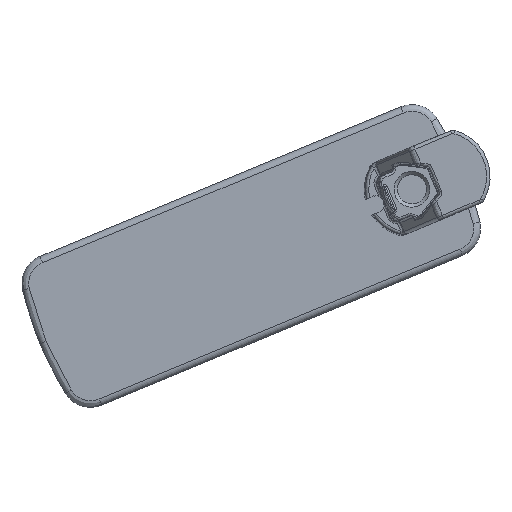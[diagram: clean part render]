
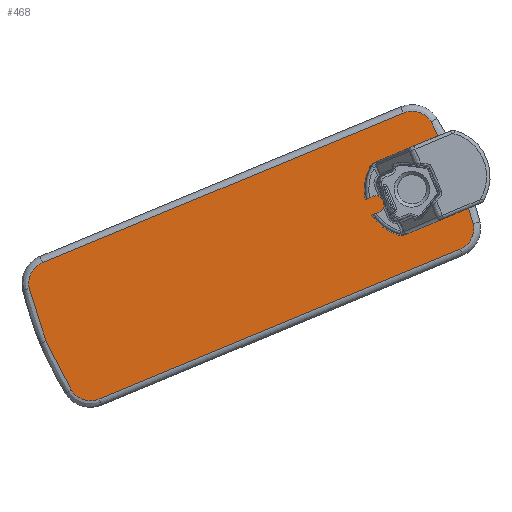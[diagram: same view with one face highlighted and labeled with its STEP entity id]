
A CAD part, top view. The second image highlights one B-rep face of the part: STEP entity #468.
In plain terms, the highlighted free-form (B-spline) face has degree [1, 1] with [2, 2] control points.
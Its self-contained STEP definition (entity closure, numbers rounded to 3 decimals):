
#369=CARTESIAN_POINT('',(-63.75,-30.75,-5.));
#370=CARTESIAN_POINT('',(-63.75,117.75,-5.));
#371=CARTESIAN_POINT('',(84.75,-30.75,-5.));
#372=CARTESIAN_POINT('',(84.75,117.75,-5.));
#373=B_SPLINE_SURFACE_WITH_KNOTS('',1,1,((#369,#370),(#371,#372)),.PLANE_SURF.,.F.,.F.,.U.,(2,2),(2,2),(0.,1.),(0.,1.),.UNSPECIFIED.);
#374=CARTESIAN_POINT('',(-46.755,-21.616,-5.));
#375=VERTEX_POINT('',#374);
#376=CARTESIAN_POINT('',(67.755,-21.616,-5.));
#377=VERTEX_POINT('',#376);
#378=CARTESIAN_POINT('',(-46.755,-21.616,-5.));
#379=CARTESIAN_POINT('',(67.755,-21.616,-5.));
#380=B_SPLINE_CURVE_WITH_KNOTS('',1,(#378,#379),.POLYLINE_FORM.,.F.,.U.,(2,2),(0.,1.),.UNSPECIFIED.);
#381=EDGE_CURVE('',#375,#377,#380,.T.);
#382=ORIENTED_EDGE('',*,*,#381,.T.);
#383=CARTESIAN_POINT('',(74.281,-16.091,-5.));
#384=VERTEX_POINT('',#383);
#385=CARTESIAN_POINT('',(67.755,-21.616,-5.));
#386=CARTESIAN_POINT('',(73.358,-21.616,-5.));
#387=CARTESIAN_POINT('',(74.281,-16.091,-5.));
#388=(BOUNDED_CURVE()B_SPLINE_CURVE(2,(#385,#386,#387),.CIRCULAR_ARC.,.F.,.U.)B_SPLINE_CURVE_WITH_KNOTS((3,3),(0.,1.),.UNSPECIFIED.)CURVE()GEOMETRIC_REPRESENTATION_ITEM()RATIONAL_B_SPLINE_CURVE((1.,0.763,1.))REPRESENTATION_ITEM(''));
#389=EDGE_CURVE('',#377,#384,#388,.T.);
#390=ORIENTED_EDGE('',*,*,#389,.T.);
#391=CARTESIAN_POINT('',(75.616,0.,-5.));
#392=VERTEX_POINT('',#391);
#393=CARTESIAN_POINT('',(74.281,-16.091,-5.));
#394=CARTESIAN_POINT('',(75.616,-8.101,-5.));
#395=CARTESIAN_POINT('',(75.616,0.,-5.));
#396=(BOUNDED_CURVE()B_SPLINE_CURVE(2,(#393,#394,#395),.CIRCULAR_ARC.,.F.,.U.)B_SPLINE_CURVE_WITH_KNOTS((3,3),(0.,1.),.UNSPECIFIED.)CURVE()GEOMETRIC_REPRESENTATION_ITEM()RATIONAL_B_SPLINE_CURVE((1.,0.997,1.))REPRESENTATION_ITEM(''));
#397=EDGE_CURVE('',#384,#392,#396,.T.);
#398=ORIENTED_EDGE('',*,*,#397,.T.);
#399=CARTESIAN_POINT('',(74.281,16.091,-5.));
#400=VERTEX_POINT('',#399);
#401=CARTESIAN_POINT('',(75.616,0.,-5.));
#402=CARTESIAN_POINT('',(75.616,8.101,-5.));
#403=CARTESIAN_POINT('',(74.281,16.091,-5.));
#404=(BOUNDED_CURVE()B_SPLINE_CURVE(2,(#401,#402,#403),.CIRCULAR_ARC.,.F.,.U.)B_SPLINE_CURVE_WITH_KNOTS((3,3),(0.,1.),.UNSPECIFIED.)CURVE()GEOMETRIC_REPRESENTATION_ITEM()RATIONAL_B_SPLINE_CURVE((1.,0.997,1.))REPRESENTATION_ITEM(''));
#405=EDGE_CURVE('',#392,#400,#404,.T.);
#406=ORIENTED_EDGE('',*,*,#405,.T.);
#407=CARTESIAN_POINT('',(67.755,21.616,-5.));
#408=VERTEX_POINT('',#407);
#409=CARTESIAN_POINT('',(74.281,16.091,-5.));
#410=CARTESIAN_POINT('',(73.358,21.616,-5.));
#411=CARTESIAN_POINT('',(67.755,21.616,-5.));
#412=(BOUNDED_CURVE()B_SPLINE_CURVE(2,(#409,#410,#411),.CIRCULAR_ARC.,.F.,.U.)B_SPLINE_CURVE_WITH_KNOTS((3,3),(0.,1.),.UNSPECIFIED.)CURVE()GEOMETRIC_REPRESENTATION_ITEM()RATIONAL_B_SPLINE_CURVE((1.,0.763,1.))REPRESENTATION_ITEM(''));
#413=EDGE_CURVE('',#400,#408,#412,.T.);
#414=ORIENTED_EDGE('',*,*,#413,.T.);
#415=CARTESIAN_POINT('',(-46.755,21.616,-5.));
#416=VERTEX_POINT('',#415);
#417=CARTESIAN_POINT('',(67.755,21.616,-5.));
#418=CARTESIAN_POINT('',(-46.755,21.616,-5.));
#419=B_SPLINE_CURVE_WITH_KNOTS('',1,(#417,#418),.POLYLINE_FORM.,.F.,.U.,(2,2),(0.,1.),.UNSPECIFIED.);
#420=EDGE_CURVE('',#408,#416,#419,.T.);
#421=ORIENTED_EDGE('',*,*,#420,.T.);
#422=CARTESIAN_POINT('',(-53.281,16.091,-5.));
#423=VERTEX_POINT('',#422);
#424=CARTESIAN_POINT('',(-46.755,21.616,-5.));
#425=CARTESIAN_POINT('',(-52.358,21.616,-5.));
#426=CARTESIAN_POINT('',(-53.281,16.091,-5.));
#427=(BOUNDED_CURVE()B_SPLINE_CURVE(2,(#424,#425,#426),.CIRCULAR_ARC.,.F.,.U.)B_SPLINE_CURVE_WITH_KNOTS((3,3),(0.,1.),.UNSPECIFIED.)CURVE()GEOMETRIC_REPRESENTATION_ITEM()RATIONAL_B_SPLINE_CURVE((1.,0.763,1.))REPRESENTATION_ITEM(''));
#428=EDGE_CURVE('',#416,#423,#427,.T.);
#429=ORIENTED_EDGE('',*,*,#428,.T.);
#430=CARTESIAN_POINT('',(-54.616,0.,-5.));
#431=VERTEX_POINT('',#430);
#432=CARTESIAN_POINT('',(-53.281,16.091,-5.));
#433=CARTESIAN_POINT('',(-54.616,8.101,-5.));
#434=CARTESIAN_POINT('',(-54.616,0.,-5.));
#435=(BOUNDED_CURVE()B_SPLINE_CURVE(2,(#432,#433,#434),.CIRCULAR_ARC.,.F.,.U.)B_SPLINE_CURVE_WITH_KNOTS((3,3),(0.,1.),.UNSPECIFIED.)CURVE()GEOMETRIC_REPRESENTATION_ITEM()RATIONAL_B_SPLINE_CURVE((1.,0.997,1.))REPRESENTATION_ITEM(''));
#436=EDGE_CURVE('',#423,#431,#435,.T.);
#437=ORIENTED_EDGE('',*,*,#436,.T.);
#438=CARTESIAN_POINT('',(-53.281,-16.091,-5.));
#439=VERTEX_POINT('',#438);
#440=CARTESIAN_POINT('',(-54.616,0.,-5.));
#441=CARTESIAN_POINT('',(-54.616,-8.101,-5.));
#442=CARTESIAN_POINT('',(-53.281,-16.091,-5.));
#443=(BOUNDED_CURVE()B_SPLINE_CURVE(2,(#440,#441,#442),.CIRCULAR_ARC.,.F.,.U.)B_SPLINE_CURVE_WITH_KNOTS((3,3),(0.,1.),.UNSPECIFIED.)CURVE()GEOMETRIC_REPRESENTATION_ITEM()RATIONAL_B_SPLINE_CURVE((1.,0.997,1.))REPRESENTATION_ITEM(''));
#444=EDGE_CURVE('',#431,#439,#443,.T.);
#445=ORIENTED_EDGE('',*,*,#444,.T.);
#446=CARTESIAN_POINT('',(-53.281,-16.091,-5.));
#447=CARTESIAN_POINT('',(-52.358,-21.616,-5.));
#448=CARTESIAN_POINT('',(-46.755,-21.616,-5.));
#449=(BOUNDED_CURVE()B_SPLINE_CURVE(2,(#446,#447,#448),.CIRCULAR_ARC.,.F.,.U.)B_SPLINE_CURVE_WITH_KNOTS((3,3),(0.,1.),.UNSPECIFIED.)CURVE()GEOMETRIC_REPRESENTATION_ITEM()RATIONAL_B_SPLINE_CURVE((1.,0.763,1.))REPRESENTATION_ITEM(''));
#450=EDGE_CURVE('',#439,#375,#449,.T.);
#451=ORIENTED_EDGE('',*,*,#450,.T.);
#452=EDGE_LOOP('',(#382,#390,#398,#406,#414,#421,#429,#437,#445,#451));
#453=FACE_OUTER_BOUND('',#452,.F.);
#454=CARTESIAN_POINT('',(-48.75,0.,-5.));
#455=VERTEX_POINT('',#454);
#456=CARTESIAN_POINT('',(-48.75,0.,-5.));
#457=CARTESIAN_POINT('',(-48.75,14.289,-5.));
#458=CARTESIAN_POINT('',(-36.375,7.145,-5.));
#459=CARTESIAN_POINT('',(-24.,0.,-5.));
#460=CARTESIAN_POINT('',(-36.375,-7.145,-5.));
#461=CARTESIAN_POINT('',(-48.75,-14.289,-5.));
#462=CARTESIAN_POINT('',(-48.75,0.,-5.));
#463=(BOUNDED_CURVE()B_SPLINE_CURVE(2,(#456,#457,#458,#459,#460,#461,#462),.CIRCULAR_ARC.,.T.,.U.)B_SPLINE_CURVE_WITH_KNOTS((3,2,2,3),(0.,0.333,0.667,1.),.UNSPECIFIED.)CURVE()GEOMETRIC_REPRESENTATION_ITEM()RATIONAL_B_SPLINE_CURVE((1.,0.5,1.,0.5,1.,0.5,1.))REPRESENTATION_ITEM(''));
#464=EDGE_CURVE('',#455,#455,#463,.T.);
#465=ORIENTED_EDGE('',*,*,#464,.T.);
#466=EDGE_LOOP('',(#465));
#467=FACE_BOUND('',#466,.F.);
#468=ADVANCED_FACE('',(#453,#467),#373,.F.);
